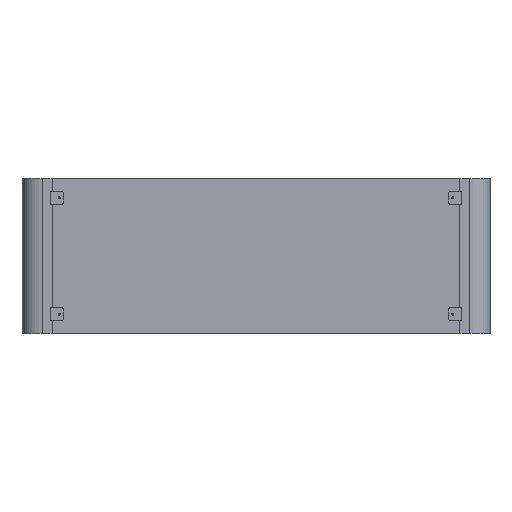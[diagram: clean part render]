
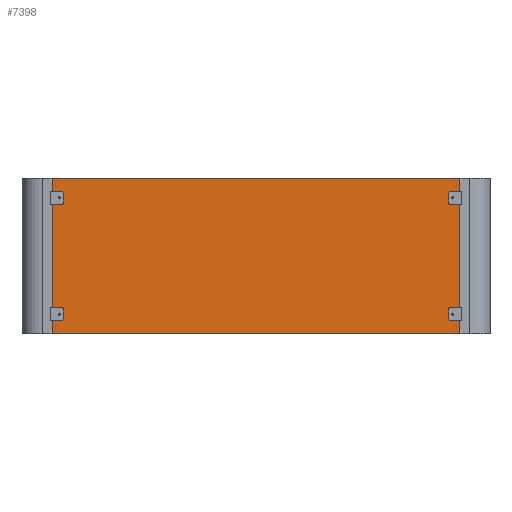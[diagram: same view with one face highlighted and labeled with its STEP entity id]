
A CAD part, front view. The second image highlights one B-rep face of the part: STEP entity #7398.
In plain terms, the highlighted planar face has unit normal (0, -1, 0).
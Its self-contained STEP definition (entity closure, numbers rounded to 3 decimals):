
#68 = AXIS2_PLACEMENT_3D ( 'NONE', #1631, #22446, #30858 ) ;
#207 = VERTEX_POINT ( 'NONE', #17429 ) ;
#325 = CARTESIAN_POINT ( 'NONE',  ( 458.8, -8., 174.8 ) ) ;
#457 = DIRECTION ( 'NONE',  ( 0., 0., 1. ) ) ;
#459 = DIRECTION ( 'NONE',  ( 0., 1., 0. ) ) ;
#480 = ORIENTED_EDGE ( 'NONE', *, *, #647, .T. ) ;
#647 = EDGE_CURVE ( 'NONE', #36844, #22382, #14863, .T. ) ;
#1103 = ORIENTED_EDGE ( 'NONE', *, *, #36622, .T. ) ;
#1611 = CARTESIAN_POINT ( 'NONE',  ( 0., -8., 0. ) ) ;
#1631 = CARTESIAN_POINT ( 'NONE',  ( -458.8, -8., -174.8 ) ) ;
#1688 = EDGE_LOOP ( 'NONE', ( #1103, #34596 ) ) ;
#1827 = VECTOR ( 'NONE', #20724, 1000. ) ;
#2199 = DIRECTION ( 'NONE',  ( 0., 1., 0. ) ) ;
#2349 = VERTEX_POINT ( 'NONE', #5287 ) ;
#2402 = EDGE_CURVE ( 'NONE', #207, #14204, #9450, .T. ) ;
#2527 = ORIENTED_EDGE ( 'NONE', *, *, #9212, .T. ) ;
#3736 = CIRCLE ( 'NONE', #25093, 2.2 ) ;
#3762 = CARTESIAN_POINT ( 'NONE',  ( -459., -8., 174.8 ) ) ;
#4049 = CARTESIAN_POINT ( 'NONE',  ( 444., -8., 129.05 ) ) ;
#4181 = CARTESIAN_POINT ( 'NONE',  ( -459., -8., -174.8 ) ) ;
#4514 = VECTOR ( 'NONE', #5559, 1000. ) ;
#4840 = CARTESIAN_POINT ( 'NONE',  ( -444., -8., -129.05 ) ) ;
#4929 = ORIENTED_EDGE ( 'NONE', *, *, #25063, .T. ) ;
#5287 = CARTESIAN_POINT ( 'NONE',  ( 458.8, -8., 175. ) ) ;
#5559 = DIRECTION ( 'NONE',  ( 1., 0., 0. ) ) ;
#5592 = ORIENTED_EDGE ( 'NONE', *, *, #34865, .T. ) ;
#5754 = CARTESIAN_POINT ( 'NONE',  ( 459., -8., 175. ) ) ;
#7198 = DIRECTION ( 'NONE',  ( 0., 0., 1. ) ) ;
#7398 = ADVANCED_FACE ( 'NONE', ( #34471, #19559, #7738, #25297, #31012 ), #16701, .F. ) ;
#7738 = FACE_BOUND ( 'NONE', #36083, .T. ) ;
#8219 = CARTESIAN_POINT ( 'NONE',  ( 444., -8., -131.25 ) ) ;
#8403 = ORIENTED_EDGE ( 'NONE', *, *, #32916, .F. ) ;
#8754 = EDGE_LOOP ( 'NONE', ( #35210, #32495 ) ) ;
#9001 = DIRECTION ( 'NONE',  ( 0., 0., -1. ) ) ;
#9144 = VERTEX_POINT ( 'NONE', #32742 ) ;
#9212 = EDGE_CURVE ( 'NONE', #14204, #207, #23804, .T. ) ;
#9428 = AXIS2_PLACEMENT_3D ( 'NONE', #28490, #10350, #19714 ) ;
#9450 = CIRCLE ( 'NONE', #30800, 2.2 ) ;
#10119 = CARTESIAN_POINT ( 'NONE',  ( 444., -8., 131.25 ) ) ;
#10350 = DIRECTION ( 'NONE',  ( 0., -1., 0. ) ) ;
#10945 = CARTESIAN_POINT ( 'NONE',  ( 459., -8., 174.8 ) ) ;
#11278 = DIRECTION ( 'NONE',  ( 0., 0., 1. ) ) ;
#11542 = CIRCLE ( 'NONE', #14589, 0.2 ) ;
#11672 = AXIS2_PLACEMENT_3D ( 'NONE', #19390, #2199, #28368 ) ;
#11744 = LINE ( 'NONE', #23392, #1827 ) ;
#11845 = VERTEX_POINT ( 'NONE', #4181 ) ;
#12673 = CIRCLE ( 'NONE', #32187, 0.2 ) ;
#13460 = AXIS2_PLACEMENT_3D ( 'NONE', #1611, #16133, #36963 ) ;
#13590 = ORIENTED_EDGE ( 'NONE', *, *, #30426, .T. ) ;
#13870 = ORIENTED_EDGE ( 'NONE', *, *, #24501, .F. ) ;
#14155 = VERTEX_POINT ( 'NONE', #25318 ) ;
#14204 = VERTEX_POINT ( 'NONE', #37552 ) ;
#14356 = LINE ( 'NONE', #5754, #4514 ) ;
#14589 = AXIS2_PLACEMENT_3D ( 'NONE', #325, #17894, #18651 ) ;
#14624 = DIRECTION ( 'NONE',  ( 0., 1., 0. ) ) ;
#14627 = DIRECTION ( 'NONE',  ( -1., 0., 0. ) ) ;
#14711 = CIRCLE ( 'NONE', #11672, 2.2 ) ;
#14863 = CIRCLE ( 'NONE', #35003, 2.2 ) ;
#15445 = VERTEX_POINT ( 'NONE', #16344 ) ;
#15482 = AXIS2_PLACEMENT_3D ( 'NONE', #8219, #19870, #23094 ) ;
#15634 = VERTEX_POINT ( 'NONE', #23194 ) ;
#16133 = DIRECTION ( 'NONE',  ( 0., 1., 0. ) ) ;
#16344 = CARTESIAN_POINT ( 'NONE',  ( -458.8, -8., -175. ) ) ;
#16701 = PLANE ( 'NONE',  #13460 ) ;
#16832 = DIRECTION ( 'NONE',  ( 0., 1., 0. ) ) ;
#16931 = VERTEX_POINT ( 'NONE', #4840 ) ;
#17056 = DIRECTION ( 'NONE',  ( 0., 1., 0. ) ) ;
#17429 = CARTESIAN_POINT ( 'NONE',  ( -444., -8., 129.05 ) ) ;
#17779 = LINE ( 'NONE', #23530, #36532 ) ;
#17847 = CARTESIAN_POINT ( 'NONE',  ( -444., -8., -131.25 ) ) ;
#17894 = DIRECTION ( 'NONE',  ( 0., -1., 0. ) ) ;
#17995 = ORIENTED_EDGE ( 'NONE', *, *, #22609, .F. ) ;
#18651 = DIRECTION ( 'NONE',  ( 0., 0., 1. ) ) ;
#19053 = ORIENTED_EDGE ( 'NONE', *, *, #27198, .T. ) ;
#19390 = CARTESIAN_POINT ( 'NONE',  ( 444., -8., -131.25 ) ) ;
#19559 = FACE_BOUND ( 'NONE', #32918, .T. ) ;
#19714 = DIRECTION ( 'NONE',  ( 0., 0., 1. ) ) ;
#19870 = DIRECTION ( 'NONE',  ( 0., 1., 0. ) ) ;
#20724 = DIRECTION ( 'NONE',  ( 0., 0., 1. ) ) ;
#20769 = AXIS2_PLACEMENT_3D ( 'NONE', #35419, #34851, #457 ) ;
#21770 = DIRECTION ( 'NONE',  ( 0., 1., 0. ) ) ;
#21821 = ORIENTED_EDGE ( 'NONE', *, *, #2402, .T. ) ;
#21955 = VERTEX_POINT ( 'NONE', #24655 ) ;
#22112 = CARTESIAN_POINT ( 'NONE',  ( 458.8, -8., -174.8 ) ) ;
#22141 = EDGE_CURVE ( 'NONE', #29130, #9144, #32551, .T. ) ;
#22382 = VERTEX_POINT ( 'NONE', #32445 ) ;
#22446 = DIRECTION ( 'NONE',  ( 0., -1., 0. ) ) ;
#22609 = EDGE_CURVE ( 'NONE', #14155, #15445, #23049, .T. ) ;
#23049 = LINE ( 'NONE', #25719, #24644 ) ;
#23094 = DIRECTION ( 'NONE',  ( 0., 0., 1. ) ) ;
#23194 = CARTESIAN_POINT ( 'NONE',  ( -444., -8., -133.45 ) ) ;
#23392 = CARTESIAN_POINT ( 'NONE',  ( -459., -8., 175. ) ) ;
#23530 = CARTESIAN_POINT ( 'NONE',  ( 459., -8., 175. ) ) ;
#23804 = CIRCLE ( 'NONE', #20769, 2.2 ) ;
#24377 = EDGE_CURVE ( 'NONE', #15634, #16931, #30149, .T. ) ;
#24501 = EDGE_CURVE ( 'NONE', #21955, #2349, #14356, .T. ) ;
#24644 = VECTOR ( 'NONE', #14627, 1000. ) ;
#24655 = CARTESIAN_POINT ( 'NONE',  ( -458.8, -8., 175. ) ) ;
#24779 = DIRECTION ( 'NONE',  ( 0., -1., 0. ) ) ;
#25063 = EDGE_CURVE ( 'NONE', #21955, #37660, #32607, .T. ) ;
#25083 = CIRCLE ( 'NONE', #68, 0.2 ) ;
#25093 = AXIS2_PLACEMENT_3D ( 'NONE', #10119, #21770, #34310 ) ;
#25297 = FACE_BOUND ( 'NONE', #1688, .T. ) ;
#25318 = CARTESIAN_POINT ( 'NONE',  ( 458.8, -8., -175. ) ) ;
#25351 = DIRECTION ( 'NONE',  ( 0., 0., 1. ) ) ;
#25719 = CARTESIAN_POINT ( 'NONE',  ( 459., -8., -175. ) ) ;
#26462 = AXIS2_PLACEMENT_3D ( 'NONE', #17847, #459, #32744 ) ;
#27198 = EDGE_CURVE ( 'NONE', #11845, #15445, #25083, .T. ) ;
#27242 = EDGE_CURVE ( 'NONE', #9144, #29130, #14711, .T. ) ;
#27349 = ORIENTED_EDGE ( 'NONE', *, *, #29777, .F. ) ;
#28112 = EDGE_LOOP ( 'NONE', ( #27349, #34838, #13870, #4929, #8403, #19053, #17995, #13590 ) ) ;
#28368 = DIRECTION ( 'NONE',  ( 0., 0., 1. ) ) ;
#28490 = CARTESIAN_POINT ( 'NONE',  ( -458.8, -8., 174.8 ) ) ;
#28633 = CARTESIAN_POINT ( 'NONE',  ( 459., -8., -174.8 ) ) ;
#28638 = CARTESIAN_POINT ( 'NONE',  ( 444., -8., 131.25 ) ) ;
#29130 = VERTEX_POINT ( 'NONE', #33373 ) ;
#29777 = EDGE_CURVE ( 'NONE', #34259, #31773, #17779, .T. ) ;
#30149 = CIRCLE ( 'NONE', #26462, 2.2 ) ;
#30426 = EDGE_CURVE ( 'NONE', #14155, #31773, #12673, .T. ) ;
#30800 = AXIS2_PLACEMENT_3D ( 'NONE', #32032, #14624, #34526 ) ;
#30858 = DIRECTION ( 'NONE',  ( 0., 0., 1. ) ) ;
#31012 = FACE_OUTER_BOUND ( 'NONE', #28112, .T. ) ;
#31773 = VERTEX_POINT ( 'NONE', #28633 ) ;
#32032 = CARTESIAN_POINT ( 'NONE',  ( -444., -8., 131.25 ) ) ;
#32187 = AXIS2_PLACEMENT_3D ( 'NONE', #22112, #24779, #25351 ) ;
#32445 = CARTESIAN_POINT ( 'NONE',  ( 444., -8., 133.45 ) ) ;
#32495 = ORIENTED_EDGE ( 'NONE', *, *, #27242, .T. ) ;
#32525 = EDGE_CURVE ( 'NONE', #34259, #2349, #11542, .T. ) ;
#32551 = CIRCLE ( 'NONE', #15482, 2.2 ) ;
#32607 = CIRCLE ( 'NONE', #9428, 0.2 ) ;
#32742 = CARTESIAN_POINT ( 'NONE',  ( 444., -8., -133.45 ) ) ;
#32744 = DIRECTION ( 'NONE',  ( 0., 0., 1. ) ) ;
#32916 = EDGE_CURVE ( 'NONE', #11845, #37660, #11744, .T. ) ;
#32918 = EDGE_LOOP ( 'NONE', ( #5592, #480 ) ) ;
#33373 = CARTESIAN_POINT ( 'NONE',  ( 444., -8., -129.05 ) ) ;
#34113 = AXIS2_PLACEMENT_3D ( 'NONE', #34463, #17056, #7198 ) ;
#34259 = VERTEX_POINT ( 'NONE', #10945 ) ;
#34310 = DIRECTION ( 'NONE',  ( 0., 0., 1. ) ) ;
#34463 = CARTESIAN_POINT ( 'NONE',  ( -444., -8., -131.25 ) ) ;
#34471 = FACE_BOUND ( 'NONE', #8754, .T. ) ;
#34526 = DIRECTION ( 'NONE',  ( 0., 0., 1. ) ) ;
#34596 = ORIENTED_EDGE ( 'NONE', *, *, #24377, .T. ) ;
#34838 = ORIENTED_EDGE ( 'NONE', *, *, #32525, .T. ) ;
#34851 = DIRECTION ( 'NONE',  ( 0., 1., 0. ) ) ;
#34865 = EDGE_CURVE ( 'NONE', #22382, #36844, #3736, .T. ) ;
#35003 = AXIS2_PLACEMENT_3D ( 'NONE', #28638, #16832, #11278 ) ;
#35210 = ORIENTED_EDGE ( 'NONE', *, *, #22141, .T. ) ;
#35419 = CARTESIAN_POINT ( 'NONE',  ( -444., -8., 131.25 ) ) ;
#36083 = EDGE_LOOP ( 'NONE', ( #2527, #21821 ) ) ;
#36532 = VECTOR ( 'NONE', #9001, 1000. ) ;
#36556 = CIRCLE ( 'NONE', #34113, 2.2 ) ;
#36622 = EDGE_CURVE ( 'NONE', #16931, #15634, #36556, .T. ) ;
#36844 = VERTEX_POINT ( 'NONE', #4049 ) ;
#36963 = DIRECTION ( 'NONE',  ( 1., 0., 0. ) ) ;
#37552 = CARTESIAN_POINT ( 'NONE',  ( -444., -8., 133.45 ) ) ;
#37660 = VERTEX_POINT ( 'NONE', #3762 ) ;
